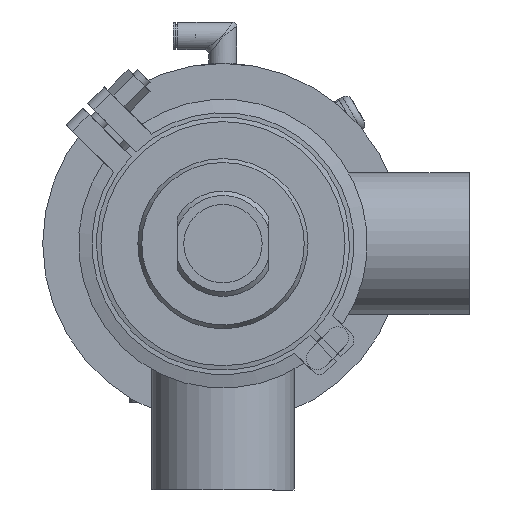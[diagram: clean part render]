
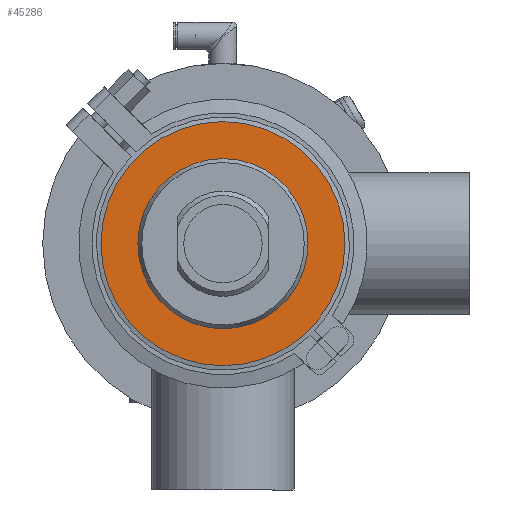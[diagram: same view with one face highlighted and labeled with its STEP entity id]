
A CAD part, front view. The second image highlights one B-rep face of the part: STEP entity #45286.
In plain terms, the highlighted planar face has unit normal (0, -1, 0).
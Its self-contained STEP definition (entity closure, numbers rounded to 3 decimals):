
#682 = ORIENTED_EDGE ( 'NONE', *, *, #51619, .F. ) ;
#1943 = CARTESIAN_POINT ( 'NONE',  ( 0., -13., 54.5 ) ) ;
#5264 = CARTESIAN_POINT ( 'NONE',  ( 0., -13., 38. ) ) ;
#7716 = EDGE_LOOP ( 'NONE', ( #682 ) ) ;
#9524 = AXIS2_PLACEMENT_3D ( 'NONE', #32235, #18725, #42040 ) ;
#12983 = EDGE_LOOP ( 'NONE', ( #21119 ) ) ;
#13832 = AXIS2_PLACEMENT_3D ( 'NONE', #56354, #42354, #41422 ) ;
#18725 = DIRECTION ( 'NONE',  ( 0., 1., 0. ) ) ;
#18952 = EDGE_CURVE ( 'NONE', #48550, #48550, #57208, .T. ) ;
#19635 = CIRCLE ( 'NONE', #9524, 54.5 ) ;
#21119 = ORIENTED_EDGE ( 'NONE', *, *, #18952, .T. ) ;
#21357 = DIRECTION ( 'NONE',  ( 0., -1., 0. ) ) ;
#30810 = PLANE ( 'NONE',  #57496 ) ;
#32235 = CARTESIAN_POINT ( 'NONE',  ( 0., -13., 0. ) ) ;
#39789 = VERTEX_POINT ( 'NONE', #1943 ) ;
#41422 = DIRECTION ( 'NONE',  ( 0., 0., 1. ) ) ;
#42040 = DIRECTION ( 'NONE',  ( 0., 0., 1. ) ) ;
#42354 = DIRECTION ( 'NONE',  ( 0., 1., 0. ) ) ;
#45286 = ADVANCED_FACE ( 'NONE', ( #45341, #55510 ), #30810, .T. ) ;
#45341 = FACE_BOUND ( 'NONE', #12983, .T. ) ;
#48550 = VERTEX_POINT ( 'NONE', #5264 ) ;
#50750 = DIRECTION ( 'NONE',  ( 0., 0., -1. ) ) ;
#51619 = EDGE_CURVE ( 'NONE', #39789, #39789, #19635, .T. ) ;
#54867 = CARTESIAN_POINT ( 'NONE',  ( -54.5, -13., 0. ) ) ;
#55510 = FACE_OUTER_BOUND ( 'NONE', #7716, .T. ) ;
#56354 = CARTESIAN_POINT ( 'NONE',  ( 0., -13., 0. ) ) ;
#57208 = CIRCLE ( 'NONE', #13832, 38. ) ;
#57496 = AXIS2_PLACEMENT_3D ( 'NONE', #54867, #21357, #50750 ) ;
